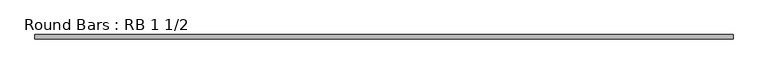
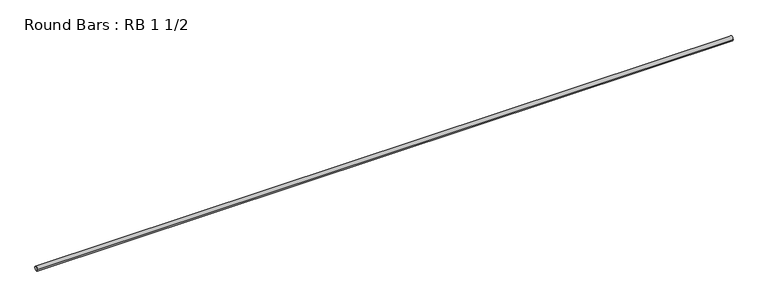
"""IFC4 building model written with IfcOpenShell, lengths in millimetres: member geometry, Round Bars : RB 1 1/2."""

from ifc_helpers import new_model, si_unit, point, frame, origin, origin_2d, place, context, project, spatial, circle_curve, trimmed, segment, composite_curve, outline, extrude, source, transform, mapped, element, save


def round_bars_rb_1_1_2_9ad4c702(model_context):
    return source(origin(), model_context, "Body", "SweptSolid", [
        extrude(outline(composite_curve([segment(trimmed(circle_curve(origin_2d(), 19.05), [point((19.05, 0.0))], [point((-19.05, 0.0))], False, "CARTESIAN"), True, "CONTINUOUS"), segment(trimmed(circle_curve(origin_2d(), 19.05), [point((-19.05, 0.0))], [point((19.05, 0.0))], False, "CARTESIAN"), True, "CONTINUOUS")], self_intersect=False)), frame((-2821.2122222, 0.0, 0.0), z_axis=(1.0, 0.0, 0.0), x_axis=(0.0, 1.0, 0.0)), (0.0, 0.0, 1.0), 5949.7292316),
    ])


if __name__ == "__main__":
    model = new_model("IFC4")
    model_context = context("Model", 3, world=origin())
    ifc_project = project(units=[si_unit("LENGTHUNIT", "METRE", prefix="MILLI")], contexts=[model_context])
    site = spatial("IfcSite", under=ifc_project)
    building = spatial("IfcBuilding", under=site)
    placement = place(None, origin())
    round_bars_rb_1_1_2_shape = round_bars_rb_1_1_2_9ad4c702(model_context)
    element("IfcMember", 1, ObjectType="Round Bars : RB 1 1/2", at=placement, inside=building, context=model_context, shape_type="MappedRepresentation", body=[
        mapped(round_bars_rb_1_1_2_shape, transform((0.0, 0.0, 0.0), x_axis=(1.0, 0.0, 0.0), y_axis=(0.0, 1.0, 0.0), z_axis=(0.0, 0.0, 1.0))),
    ])
    save(model, "model.ifc")
